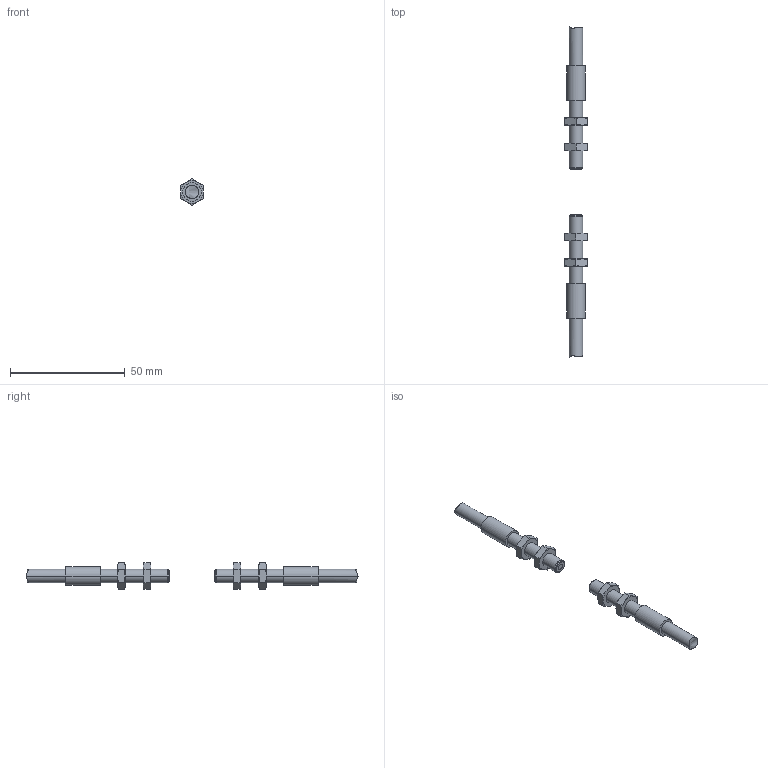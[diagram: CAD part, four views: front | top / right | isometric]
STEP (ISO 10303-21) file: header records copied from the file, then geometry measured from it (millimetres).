
FILE_DESCRIPTION((''),'2;1');
FILE_NAME('0000366317_ASM','2021-03-04T13:18:41',('11000714'),(''),'CREO PARAMETRIC BY PTC INC, 2020184','CREO PARAMETRIC BY PTC INC, 2020184','');
FILE_SCHEMA(('AUTOMOTIVE_DESIGN { 1 0 10303 214 1 1 1 1 }'));
Length unit declared in the file: millimetre
Products named in the file (3): 0000366315; 0000040816; 0000366317_ASM
Assembly tree (6 placements, depth 2):
  0000366317_ASM
    0000366315  x2
    0000040816  x4
Bounding box: 10 x 144.84 x 11.55 mm (x, y, z)
Volume: 4915.9 mm3; surface area: 5063.4 mm2
Topology: 6 solids, 12 shells, 146 faces, 336 edges, 212 vertices
Faces by surface type: cone 68, plane 40, cylinder 36, extrusion 2
Entity records: 6885 total; most frequent: CARTESIAN_POINT 3063, DIRECTION 315, PROPERTY_DEFINITION 299, REPRESENTATION 295, PROPERTY_DEFINITION_REPRESENTATION 295, DESCRIPTIVE_REPRESENTATION_ITEM 258, GENERAL_PROPERTY 250, GENERAL_PROPERTY_ASSOCIATION 250
